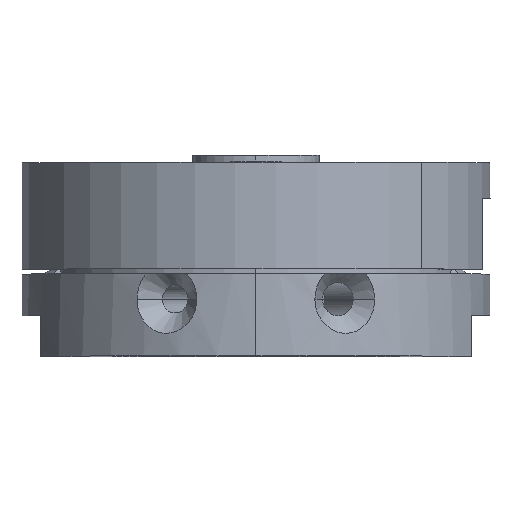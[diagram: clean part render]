
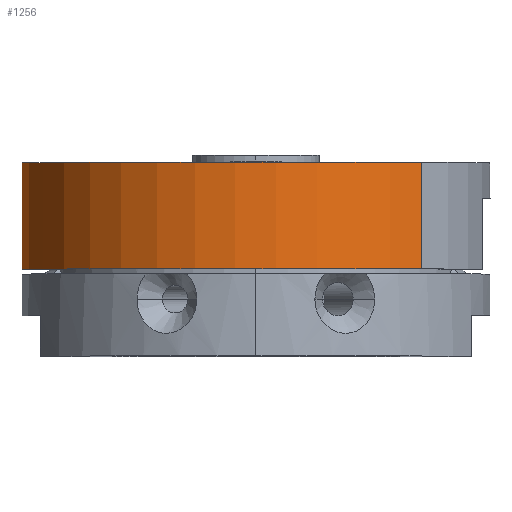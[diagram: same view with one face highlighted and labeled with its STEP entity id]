
A CAD part, top view. The second image highlights one B-rep face of the part: STEP entity #1256.
In plain terms, the highlighted cylindrical face has radius 29.362 mm (diameter 58.725 mm), a partial arc.
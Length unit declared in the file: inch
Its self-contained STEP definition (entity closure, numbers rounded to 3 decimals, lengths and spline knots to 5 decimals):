
#21 = DIRECTION ( 'NONE',  ( 0.707, 0., 0.707 ) ) ;
#277 = DIRECTION ( 'NONE',  ( 0.707, 0., 0.707 ) ) ;
#546 = CARTESIAN_POINT ( 'NONE',  ( 0., 0.954, 0. ) ) ;
#875 = VERTEX_POINT ( 'NONE', #5890 ) ;
#889 = AXIS2_PLACEMENT_3D ( 'NONE', #546, #3856, #21 ) ;
#1032 = CARTESIAN_POINT ( 'NONE',  ( 0.81742, 0.429, 0.81742 ) ) ;
#1041 = LINE ( 'NONE', #1824, #4616 ) ;
#1256 = ADVANCED_FACE ( 'NONE', ( #2661 ), #2893, .T. ) ;
#1824 = CARTESIAN_POINT ( 'NONE',  ( 0.81742, 0.954, 0.81742 ) ) ;
#1905 = DIRECTION ( 'NONE',  ( 0., 1., 0. ) ) ;
#2013 = EDGE_CURVE ( 'NONE', #2535, #5880, #2075, .T. ) ;
#2075 = CIRCLE ( 'NONE', #5207, 1.156 ) ;
#2119 = ORIENTED_EDGE ( 'NONE', *, *, #2013, .T. ) ;
#2244 = ORIENTED_EDGE ( 'NONE', *, *, #4494, .F. ) ;
#2435 = CARTESIAN_POINT ( 'NONE',  ( -0.81742, 0.954, -0.81742 ) ) ;
#2451 = CARTESIAN_POINT ( 'NONE',  ( 0., 0.954, 0. ) ) ;
#2535 = VERTEX_POINT ( 'NONE', #5312 ) ;
#2598 = EDGE_CURVE ( 'NONE', #5232, #875, #3748, .T. ) ;
#2613 = ORIENTED_EDGE ( 'NONE', *, *, #4835, .T. ) ;
#2657 = VECTOR ( 'NONE', #1905, 39.37008 ) ;
#2661 = FACE_OUTER_BOUND ( 'NONE', #3670, .T. ) ;
#2893 = CYLINDRICAL_SURFACE ( 'NONE', #889, 1.156 ) ;
#3358 = CARTESIAN_POINT ( 'NONE',  ( 0.81742, 0.954, 0.81742 ) ) ;
#3670 = EDGE_LOOP ( 'NONE', ( #2244, #2119, #2613, #5594 ) ) ;
#3748 = CIRCLE ( 'NONE', #5052, 1.156 ) ;
#3856 = DIRECTION ( 'NONE',  ( 0., 1., 0. ) ) ;
#4377 = DIRECTION ( 'NONE',  ( 0., -1., 0. ) ) ;
#4494 = EDGE_CURVE ( 'NONE', #2535, #875, #5226, .T. ) ;
#4499 = DIRECTION ( 'NONE',  ( 0., 1., 0. ) ) ;
#4616 = VECTOR ( 'NONE', #4629, 39.37008 ) ;
#4629 = DIRECTION ( 'NONE',  ( 0., 1., 0. ) ) ;
#4835 = EDGE_CURVE ( 'NONE', #5880, #5232, #1041, .T. ) ;
#5052 = AXIS2_PLACEMENT_3D ( 'NONE', #2451, #4377, #5811 ) ;
#5207 = AXIS2_PLACEMENT_3D ( 'NONE', #5540, #4499, #277 ) ;
#5226 = LINE ( 'NONE', #2435, #2657 ) ;
#5232 = VERTEX_POINT ( 'NONE', #3358 ) ;
#5312 = CARTESIAN_POINT ( 'NONE',  ( -0.81742, 0.429, -0.81742 ) ) ;
#5540 = CARTESIAN_POINT ( 'NONE',  ( 0., 0.429, 0. ) ) ;
#5594 = ORIENTED_EDGE ( 'NONE', *, *, #2598, .T. ) ;
#5811 = DIRECTION ( 'NONE',  ( 0.707, 0., 0.707 ) ) ;
#5880 = VERTEX_POINT ( 'NONE', #1032 ) ;
#5890 = CARTESIAN_POINT ( 'NONE',  ( -0.81742, 0.954, -0.81742 ) ) ;
